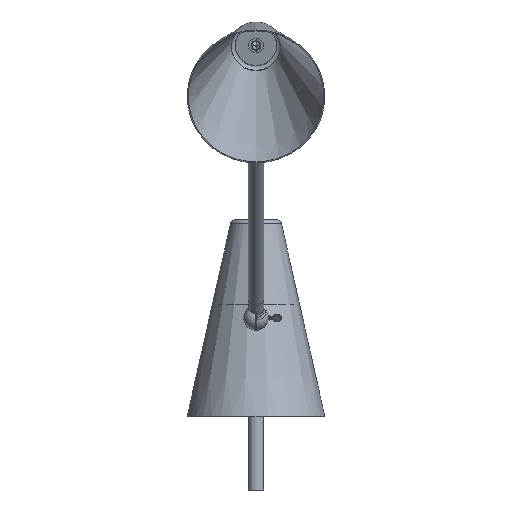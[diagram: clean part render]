
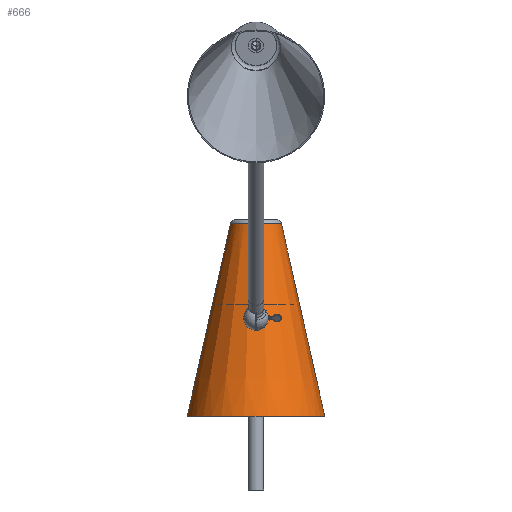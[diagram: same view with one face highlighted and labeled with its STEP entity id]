
A CAD part, front view. The second image highlights one B-rep face of the part: STEP entity #666.
In plain terms, the highlighted conical face has half-angle 12.68 degrees and reference radius 70 mm.
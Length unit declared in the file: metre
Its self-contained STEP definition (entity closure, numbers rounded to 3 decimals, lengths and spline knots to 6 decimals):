
#666 = ADVANCED_FACE( '', ( #993, #994 ), #995, .T. );
#993 = FACE_BOUND( '', #1335, .T. );
#994 = FACE_OUTER_BOUND( '', #1336, .T. );
#995 = CONICAL_SURFACE( '', #1337, 0.07, 0.221 );
#1335 = EDGE_LOOP( '', ( #2436 ) );
#1336 = EDGE_LOOP( '', ( #2437 ) );
#1337 = AXIS2_PLACEMENT_3D( '', #2438, #2439, #2440 );
#2436 = ORIENTED_EDGE( '', *, *, #2800, .T. );
#2437 = ORIENTED_EDGE( '', *, *, #2801, .F. );
#2438 = CARTESIAN_POINT( '', ( 0., 0., -0.1 ) );
#2439 = DIRECTION( '', ( 0., 0., -1. ) );
#2440 = DIRECTION( '', ( -1., 0., 0. ) );
#2800 = EDGE_CURVE( '', #3345, #3345, #3346, .F. );
#2801 = EDGE_CURVE( '', #3347, #3347, #3348, .T. );
#3345 = VERTEX_POINT( '', #4401 );
#3346 = CIRCLE( '', #4402, 0.025878 );
#3347 = VERTEX_POINT( '', #4403 );
#3348 = CIRCLE( '', #4404, 0.07 );
#4401 = CARTESIAN_POINT( '', ( 0.025878, 0., 0.096098 ) );
#4402 = AXIS2_PLACEMENT_3D( '', #4995, #4996, #4997 );
#4403 = CARTESIAN_POINT( '', ( -0.07, 0., -0.1 ) );
#4404 = AXIS2_PLACEMENT_3D( '', #4998, #4999, #5000 );
#4995 = CARTESIAN_POINT( '', ( 0., 0., 0.096098 ) );
#4996 = DIRECTION( '', ( 0., 0., 1. ) );
#4997 = DIRECTION( '', ( 1., 0., 0. ) );
#4998 = CARTESIAN_POINT( '', ( 0., 0., -0.1 ) );
#4999 = DIRECTION( '', ( 0., 0., -1. ) );
#5000 = DIRECTION( '', ( -1., 0., 0. ) );
